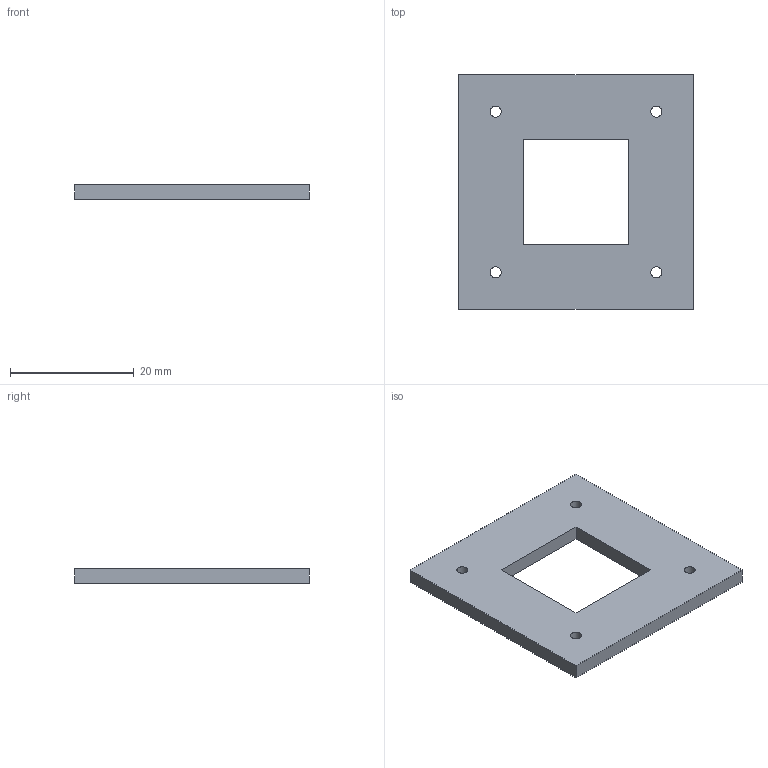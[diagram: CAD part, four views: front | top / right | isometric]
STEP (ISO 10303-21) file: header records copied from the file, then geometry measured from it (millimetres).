
FILE_DESCRIPTION(('FreeCAD Model'),'2;1');
FILE_NAME('Open CASCADE Shape Model','2026-11-04T02:12:40',('FreeCAD'),( 'FreeCAD'),'Open CASCADE STEP processor 7.8','FreeCAD','Unknown');
FILE_SCHEMA(('AUTOMOTIVE_DESIGN { 1 0 10303 214 1 1 1 1 }'));
Length unit declared in the file: millimetre
Products named in the file (1): Open CASCADE STEP translator 7.8 1
Bounding box: 38 x 38 x 2.4 mm (x, y, z)
Volume: 2747.6 mm3; surface area: 2871.9 mm2
Topology: 1 solids, 1 shells, 14 faces, 36 edges, 24 vertices
Faces by surface type: plane 10, cylinder 4
Full cylindrical faces by diameter (mm): 1.8 x4
Entity records: 458 total; most frequent: CARTESIAN_POINT 75, DIRECTION 74, ORIENTED_EDGE 72, EDGE_CURVE 36, LINE 28, VECTOR 28, FACE_BOUND 24, EDGE_LOOP 24
